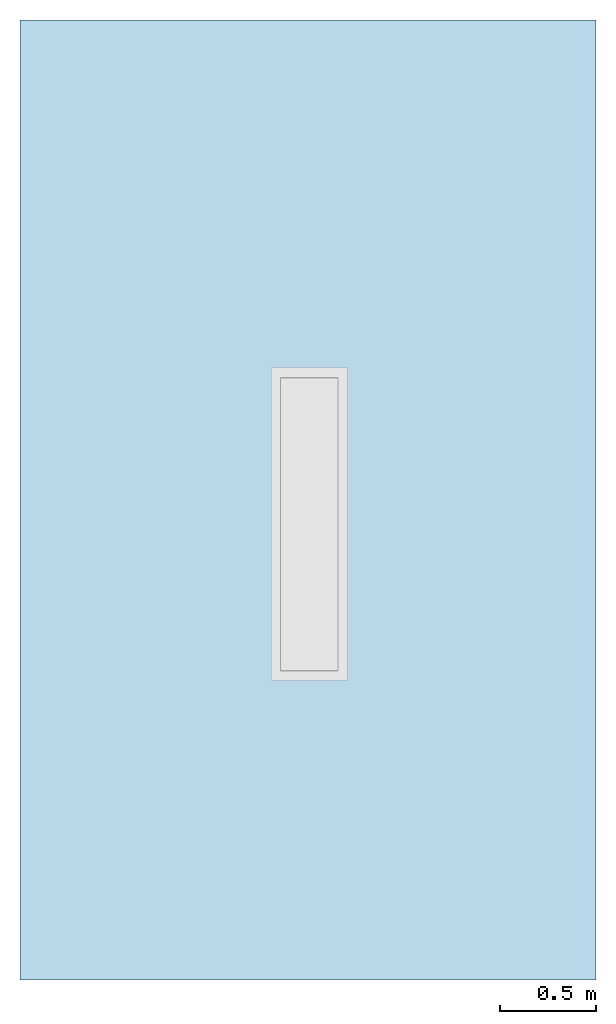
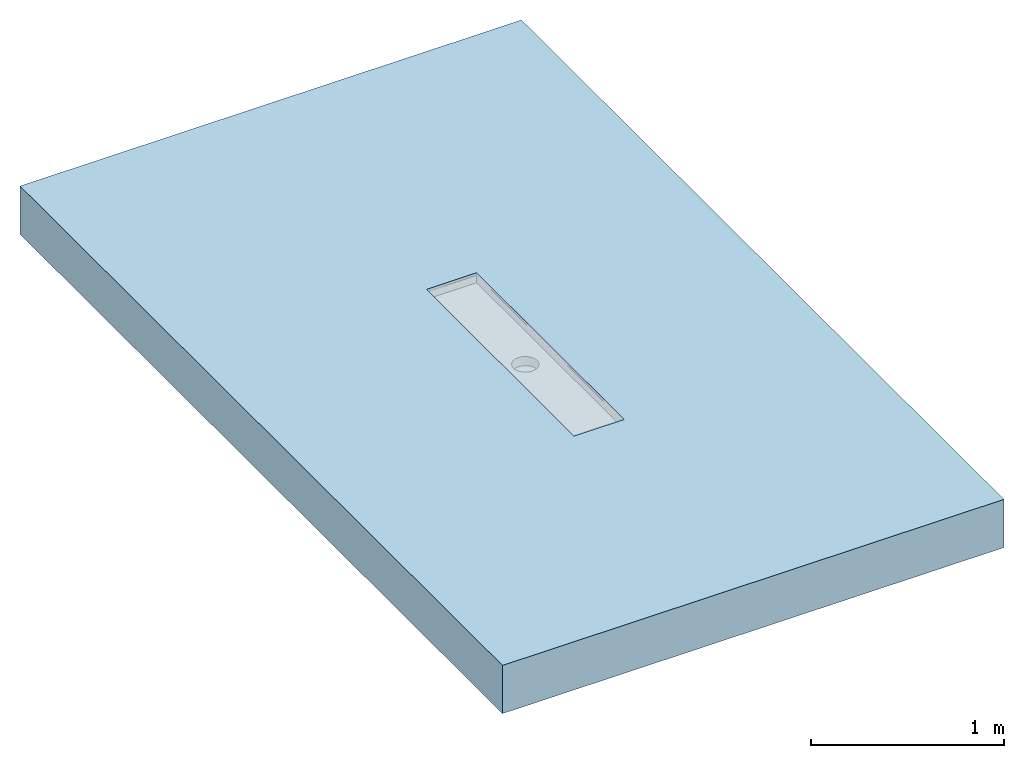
# One storey, incomplete: 1 slab, 1 opening.
"""IFC2X3 building model written with IfcOpenShell, lengths in millimetres."""

from ifc_helpers import new_model, entity, si_unit, converted_unit, derived_unit, direction, frame, frame_2d, origin, place, context, subcontext, project, spatial, rectangle, extrude, faceted_brep, material, layer, layer_set, layer_usage, element, save


model = new_model("IFC2X3")

# Units and contexts
model_context = context("Model", 3, precision=1e-05, world=origin(), true_north=direction((2.0, 6.12303176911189e-17, 1.0)))
context_of_model = context(None, 3, precision=1e-05, world=origin(), true_north=direction((2.0, 6.12303176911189e-17, 1.0)))
body_context = subcontext(model_context, "Body", "Model", "MODEL_VIEW")
ifc_project = project(units=[si_unit("LENGTHUNIT", "METRE", prefix="MILLI"), converted_unit("AREAUNIT", "SQUARE FOOT", entity("IfcRatioMeasure", 0.09290304), si_unit("AREAUNIT", "SQUARE_METRE"), dimensions=[2, 0, 0, 0, 0, 0, 0]), converted_unit("VOLUMEUNIT", "CUBIC FOOT", entity("IfcRatioMeasure", 0.028316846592), si_unit("VOLUMEUNIT", "CUBIC_METRE"), dimensions=[3, 0, 0, 0, 0, 0, 0]), converted_unit("PLANEANGLEUNIT", "DEGREE", entity("IfcRatioMeasure", 0.0174532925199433), si_unit("PLANEANGLEUNIT", "RADIAN"), dimensions=[0, 0, 0, 0, 0, 0, 0]), si_unit("MASSUNIT", "GRAM", prefix="KILO"), si_unit("TIMEUNIT", "SECOND"), si_unit("THERMODYNAMICTEMPERATUREUNIT", "KELVIN"), derived_unit("THERMALTRANSMITTANCEUNIT", [(si_unit("MASSUNIT", "GRAM", prefix="KILO"), 1), (si_unit("THERMODYNAMICTEMPERATUREUNIT", "KELVIN"), -1), (si_unit("TIMEUNIT", "SECOND"), -3)]), derived_unit("VOLUMETRICFLOWRATEUNIT", [(si_unit("LENGTHUNIT", "METRE"), 3), (si_unit("TIMEUNIT", "SECOND"), -1)]), si_unit("POWERUNIT", "WATT")], contexts=[model_context, context_of_model])

# Site, building, storey
site_placement = place(None, origin())
site = spatial("IfcSite", under=ifc_project, at=site_placement, Name="Default", CompositionType="ELEMENT")
building_placement = place(site_placement, origin())
building = spatial("IfcBuilding", under=site, at=building_placement, CompositionType="ELEMENT")
storey_placement = place(building_placement, origin())
storey = spatial("IfcBuildingStorey", under=building, at=storey_placement, Name="Level 1", CompositionType="ELEMENT", Elevation=0.0)

# Slab, opening
ifc_material = material(Name="Default Floor")
ifc_layer = layer(ifc_material, 304.8)
ifc_layer_set = layer_set([ifc_layer], Name="Floor:Generic - 12\"")
ifc_layer_usage = layer_usage(ifc_layer_set, "AXIS3", "POSITIVE", 0.0)
slab_placement = place(storey_placement, frame((-2592.42688678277, 381.838531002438, -304.8)))
slab = element("IfcSlab", 1, at=slab_placement, inside=storey, material=ifc_layer_usage, Name="Floor:Generic - 12\"", ObjectType="Floor:Generic - 12\"", PredefinedType="FLOOR", context=body_context, shape_type="SweptSolid", body=[
    extrude(rectangle(XDim=5000.0, YDim=3000.0, at=frame_2d((0.0, 0.0), x_axis=(0.0, -1.0))), frame((1500.0, 2500.0, 304.8), z_axis=(0.0, 0.0, -1.0), x_axis=(-1.0, 0.0, 0.0)), (0.0, 0.0, 1.0), 304.8),
])
opening_placement = place(slab_placement, frame((1306.86088398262, 1558.94217104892, 184.151793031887)))
element("IfcOpeningElement", 2, at=opening_placement, cuts=slab, ObjectType="Recess", context=body_context, shape_type="Brep", body=[
    faceted_brep([(350.0, 50.0, 120.648206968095), (350.0, 50.0, 105.648206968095), (350.0, 1580.0, 120.648206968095), (350.0, 1580.0, 105.648206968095), (350.0, 50.0, 104.148206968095), (350.0, 50.0, 57.8482069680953), (350.0, 1580.0, 104.148206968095), (350.0, 1580.0, 57.8482069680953), (50.0, 50.0, 57.8482069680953), (50.0, 50.0, 104.148206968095), (50.0, 1580.0, 57.8482069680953), (50.0, 1580.0, 104.148206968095), (50.0, 50.0, 105.648206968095), (50.0, 50.0, 120.648206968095), (50.0, 1580.0, 120.648206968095), (50.0, 1580.0, 105.648206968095), (164.499999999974, 753.512196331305, 57.8482069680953), (181.623847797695, 746.419266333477, 57.8482069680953), (149.795418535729, 764.795418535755, 57.8482069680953), (200.0, 744.0, 57.8482069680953), (129.0, 815.0, 57.8482069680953), (131.41926633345, 796.623847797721, 57.8482069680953), (138.512196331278, 779.5, 57.8482069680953), (218.376152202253, 746.419266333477, 57.8482069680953), (235.499999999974, 753.512196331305, 57.8482069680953), (250.204581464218, 764.795418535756, 57.8482069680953), (261.487803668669, 779.500000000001, 57.8482069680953), (268.580733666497, 796.623847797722, 57.8482069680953), (271.0, 815.0, 57.8482069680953), (138.512196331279, 850.500000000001, 57.8482069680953), (131.41926633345, 833.37615220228, 57.8482069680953), (149.795418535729, 865.204581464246, 57.8482069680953), (164.499999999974, 876.487803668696, 57.8482069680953), (181.623847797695, 883.580733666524, 57.8482069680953), (200.0, 886.0, 57.8482069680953), (268.580733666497, 833.376152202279, 57.8482069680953), (261.487803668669, 850.5, 57.8482069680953), (235.499999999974, 876.487803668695, 57.8482069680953), (218.376152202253, 883.580733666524, 57.8482069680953), (250.204581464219, 865.204581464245, 57.8482069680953), (149.795418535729, 764.795418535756, 0.0), (200.0, 744.0, 0.0), (181.623847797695, 746.419266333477, 0.0), (164.499999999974, 753.512196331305, 0.0), (218.376152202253, 746.419266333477, 0.0), (181.623847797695, 883.580733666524, 0.0), (138.512196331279, 850.5, 0.0), (138.512196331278, 779.500000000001, 0.0), (250.204581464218, 764.795418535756, 0.0), (235.499999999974, 753.512196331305, 0.0), (268.580733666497, 833.376152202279, 0.0), (261.487803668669, 779.5, 0.0), (268.580733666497, 796.623847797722, 0.0), (271.0, 815.0, 0.0), (235.499999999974, 876.487803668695, 0.0), (131.41926633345, 796.623847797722, 0.0), (131.41926633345, 833.37615220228, 0.0), (149.795418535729, 865.204581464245, 0.0), (164.499999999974, 876.487803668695, 0.0), (200.0, 886.0, 0.0), (250.204581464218, 865.204581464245, 0.0), (261.487803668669, 850.5, 0.0), (218.376152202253, 883.580733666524, 0.0), (129.0, 815.0, 0.0), (0.0, 1630.0, 105.648206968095), (0.0, 0.0, 105.648206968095), (400.0, 1630.0, 105.648206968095), (400.0, 0.0, 105.648206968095), (0.0, 0.0, 104.148206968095), (0.0, 1630.0, 104.148206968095), (400.0, 0.0, 104.148206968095), (400.0, 1630.0, 104.148206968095)], [[[0, 1, 2]], [[3, 2, 1]], [[4, 5, 6]], [[7, 6, 5]], [[8, 9, 10]], [[11, 10, 9]], [[12, 13, 14]], [[14, 15, 12]], [[15, 14, 3]], [[2, 3, 14]], [[10, 11, 7]], [[6, 7, 11]], [[1, 0, 12]], [[13, 12, 0]], [[5, 4, 8]], [[9, 8, 4]], [[13, 0, 2]], [[2, 14, 13]], [[8, 16, 17]], [[16, 8, 18]], [[8, 17, 19]], [[20, 21, 8]], [[22, 18, 8]], [[21, 22, 8]], [[8, 10, 20]], [[5, 19, 23]], [[19, 5, 8]], [[5, 23, 24]], [[24, 25, 5]], [[26, 27, 5]], [[25, 26, 5]], [[5, 27, 28]], [[29, 30, 10]], [[31, 29, 10]], [[32, 10, 33]], [[10, 32, 31]], [[34, 33, 10]], [[10, 7, 34]], [[30, 20, 10]], [[35, 36, 7]], [[28, 35, 7]], [[37, 38, 7]], [[39, 7, 36]], [[7, 39, 37]], [[38, 34, 7]], [[28, 7, 5]], [[40, 41, 42]], [[40, 42, 43]], [[44, 41, 45]], [[40, 45, 41]], [[46, 40, 47]], [[44, 48, 49]], [[48, 50, 51]], [[51, 50, 52]], [[53, 52, 50]], [[54, 48, 44]], [[47, 55, 56]], [[56, 46, 47]], [[46, 45, 40]], [[57, 58, 45]], [[57, 45, 46]], [[44, 45, 59]], [[50, 60, 61]], [[50, 48, 60]], [[54, 59, 62]], [[48, 54, 60]], [[59, 54, 44]], [[63, 56, 55]], [[50, 35, 53]], [[61, 36, 50]], [[62, 59, 38]], [[60, 39, 61]], [[50, 36, 35]], [[35, 28, 53]], [[54, 37, 39]], [[37, 54, 38]], [[54, 62, 38]], [[39, 36, 61]], [[39, 60, 54]], [[59, 34, 38]], [[33, 45, 58]], [[57, 32, 58]], [[29, 46, 56]], [[57, 46, 31]], [[30, 56, 63]], [[45, 33, 34]], [[58, 32, 33]], [[57, 31, 32]], [[46, 29, 31]], [[30, 29, 56]], [[63, 20, 30]], [[45, 34, 59]], [[55, 21, 63]], [[47, 22, 55]], [[40, 43, 16]], [[47, 40, 18]], [[55, 22, 21]], [[21, 20, 63]], [[19, 17, 42]], [[17, 16, 43]], [[18, 40, 16]], [[18, 22, 47]], [[42, 17, 43]], [[42, 41, 19]], [[23, 44, 49]], [[48, 24, 49]], [[26, 51, 52]], [[48, 51, 25]], [[27, 52, 53]], [[44, 23, 19]], [[49, 24, 23]], [[48, 25, 24]], [[51, 26, 25]], [[27, 26, 52]], [[53, 28, 27]], [[44, 19, 41]], [[64, 15, 3]], [[15, 64, 65]], [[66, 3, 67]], [[3, 66, 64]], [[12, 65, 1]], [[65, 12, 15]], [[1, 67, 3]], [[67, 1, 65]], [[68, 9, 4]], [[9, 68, 69]], [[70, 4, 71]], [[4, 70, 68]], [[11, 69, 6]], [[69, 11, 9]], [[6, 71, 4]], [[71, 6, 69]], [[65, 64, 68]], [[69, 68, 64]], [[67, 65, 68]], [[68, 70, 67]], [[66, 67, 71]], [[70, 71, 67]], [[64, 66, 71]], [[71, 69, 64]]]),
])

save(model, "model.ifc")
